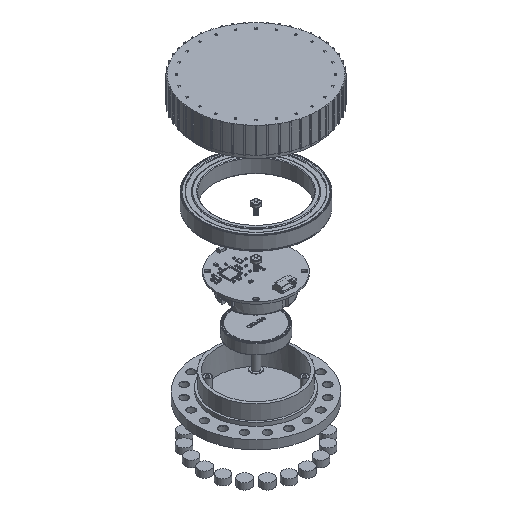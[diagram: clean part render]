
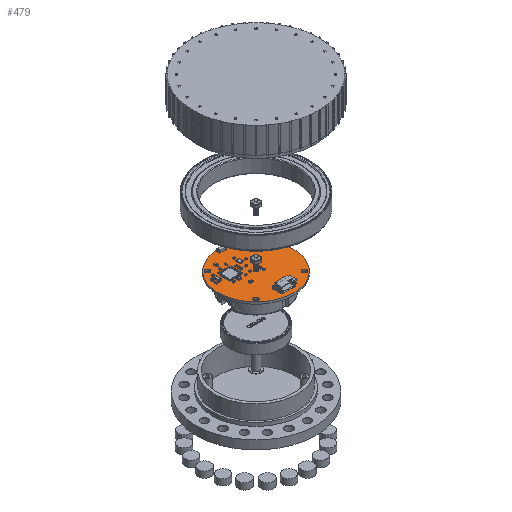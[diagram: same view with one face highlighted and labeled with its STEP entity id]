
A CAD part, isometric view. The second image highlights one B-rep face of the part: STEP entity #479.
In plain terms, the highlighted planar face has unit normal (0, 0, 1).
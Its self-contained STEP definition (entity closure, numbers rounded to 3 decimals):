
#254 = VERTEX_POINT('',#255);
#255 = CARTESIAN_POINT('',(18.25,0.,11.6));
#262 = CYLINDRICAL_SURFACE('',#263,18.25);
#263 = AXIS2_PLACEMENT_3D('',#264,#265,#266);
#264 = CARTESIAN_POINT('',(0.,0.,10.6));
#265 = DIRECTION('',(-0.,-0.,-1.));
#266 = DIRECTION('',(1.,0.,0.));
#281 = EDGE_CURVE('',#254,#254,#282,.T.);
#282 = SURFACE_CURVE('',#283,(#288,#295),.PCURVE_S1.);
#283 = CIRCLE('',#284,18.25);
#284 = AXIS2_PLACEMENT_3D('',#285,#286,#287);
#285 = CARTESIAN_POINT('',(0.,0.,11.6));
#286 = DIRECTION('',(0.,0.,1.));
#287 = DIRECTION('',(1.,0.,0.));
#288 = PCURVE('',#262,#289);
#289 = DEFINITIONAL_REPRESENTATION('',(#290),#294);
#290 = LINE('',#291,#292);
#291 = CARTESIAN_POINT('',(-0.,-1.));
#292 = VECTOR('',#293,1.);
#293 = DIRECTION('',(-1.,0.));
#294 = ( GEOMETRIC_REPRESENTATION_CONTEXT(2) 
PARAMETRIC_REPRESENTATION_CONTEXT() REPRESENTATION_CONTEXT('2D SPACE',''
  ) );
#295 = PCURVE('',#296,#301);
#296 = PLANE('',#297);
#297 = AXIS2_PLACEMENT_3D('',#298,#299,#300);
#298 = CARTESIAN_POINT('',(0.,0.,11.6)
  );
#299 = DIRECTION('',(0.,0.,1.));
#300 = DIRECTION('',(1.,0.,-0.));
#301 = DEFINITIONAL_REPRESENTATION('',(#302),#306);
#302 = CIRCLE('',#303,18.25);
#303 = AXIS2_PLACEMENT_2D('',#304,#305);
#304 = CARTESIAN_POINT('',(0.,0.));
#305 = DIRECTION('',(1.,0.));
#306 = ( GEOMETRIC_REPRESENTATION_CONTEXT(2) 
PARAMETRIC_REPRESENTATION_CONTEXT() REPRESENTATION_CONTEXT('2D SPACE',''
  ) );
#363 = CYLINDRICAL_SURFACE('',#364,1.1);
#364 = AXIS2_PLACEMENT_3D('',#365,#366,#367);
#365 = CARTESIAN_POINT('',(-11.738,-11.738,10.5));
#366 = DIRECTION('',(-0.,-0.,-1.));
#367 = DIRECTION('',(1.,0.,0.));
#398 = CYLINDRICAL_SURFACE('',#399,1.1);
#399 = AXIS2_PLACEMENT_3D('',#400,#401,#402);
#400 = CARTESIAN_POINT('',(11.738,-11.738,10.5));
#401 = DIRECTION('',(-0.,-0.,-1.));
#402 = DIRECTION('',(1.,0.,0.));
#433 = CYLINDRICAL_SURFACE('',#434,1.1);
#434 = AXIS2_PLACEMENT_3D('',#435,#436,#437);
#435 = CARTESIAN_POINT('',(-11.738,11.738,10.5));
#436 = DIRECTION('',(-0.,-0.,-1.));
#437 = DIRECTION('',(1.,0.,0.));
#468 = CYLINDRICAL_SURFACE('',#469,1.1);
#469 = AXIS2_PLACEMENT_3D('',#470,#471,#472);
#470 = CARTESIAN_POINT('',(11.738,11.738,10.5));
#471 = DIRECTION('',(-0.,-0.,-1.));
#472 = DIRECTION('',(1.,0.,0.));
#479 = ADVANCED_FACE('',(#480,#483,#513,#543,#573),#296,.T.);
#480 = FACE_BOUND('',#481,.T.);
#481 = EDGE_LOOP('',(#482));
#482 = ORIENTED_EDGE('',*,*,#281,.T.);
#483 = FACE_BOUND('',#484,.T.);
#484 = EDGE_LOOP('',(#485));
#485 = ORIENTED_EDGE('',*,*,#486,.T.);
#486 = EDGE_CURVE('',#487,#487,#489,.T.);
#487 = VERTEX_POINT('',#488);
#488 = CARTESIAN_POINT('',(-10.638,-11.738,11.6));
#489 = SURFACE_CURVE('',#490,(#495,#506),.PCURVE_S1.);
#490 = CIRCLE('',#491,1.1);
#491 = AXIS2_PLACEMENT_3D('',#492,#493,#494);
#492 = CARTESIAN_POINT('',(-11.738,-11.738,11.6));
#493 = DIRECTION('',(0.,0.,-1.));
#494 = DIRECTION('',(1.,0.,0.));
#495 = PCURVE('',#296,#496);
#496 = DEFINITIONAL_REPRESENTATION('',(#497),#505);
#497 = ( BOUNDED_CURVE() B_SPLINE_CURVE(2,(#498,#499,#500,#501,#502,#503
,#504),.UNSPECIFIED.,.T.,.F.) B_SPLINE_CURVE_WITH_KNOTS((1,2,2,2,2,1),(
    -2.094,0.,2.094,4.189,6.283,
8.378),.UNSPECIFIED.) CURVE() GEOMETRIC_REPRESENTATION_ITEM() 
RATIONAL_B_SPLINE_CURVE((1.,0.5,1.,0.5,1.,0.5,1.)) REPRESENTATION_ITEM(
  '') );
#498 = CARTESIAN_POINT('',(-10.638,-11.738));
#499 = CARTESIAN_POINT('',(-10.638,-13.643));
#500 = CARTESIAN_POINT('',(-12.288,-12.691));
#501 = CARTESIAN_POINT('',(-13.938,-11.738));
#502 = CARTESIAN_POINT('',(-12.288,-10.785));
#503 = CARTESIAN_POINT('',(-10.638,-9.833));
#504 = CARTESIAN_POINT('',(-10.638,-11.738));
#505 = ( GEOMETRIC_REPRESENTATION_CONTEXT(2) 
PARAMETRIC_REPRESENTATION_CONTEXT() REPRESENTATION_CONTEXT('2D SPACE',''
  ) );
#506 = PCURVE('',#363,#507);
#507 = DEFINITIONAL_REPRESENTATION('',(#508),#512);
#508 = LINE('',#509,#510);
#509 = CARTESIAN_POINT('',(-6.283,-1.1));
#510 = VECTOR('',#511,1.);
#511 = DIRECTION('',(1.,-0.));
#512 = ( GEOMETRIC_REPRESENTATION_CONTEXT(2) 
PARAMETRIC_REPRESENTATION_CONTEXT() REPRESENTATION_CONTEXT('2D SPACE',''
  ) );
#513 = FACE_BOUND('',#514,.T.);
#514 = EDGE_LOOP('',(#515));
#515 = ORIENTED_EDGE('',*,*,#516,.T.);
#516 = EDGE_CURVE('',#517,#517,#519,.T.);
#517 = VERTEX_POINT('',#518);
#518 = CARTESIAN_POINT('',(12.838,-11.738,11.6));
#519 = SURFACE_CURVE('',#520,(#525,#536),.PCURVE_S1.);
#520 = CIRCLE('',#521,1.1);
#521 = AXIS2_PLACEMENT_3D('',#522,#523,#524);
#522 = CARTESIAN_POINT('',(11.738,-11.738,11.6));
#523 = DIRECTION('',(0.,0.,-1.));
#524 = DIRECTION('',(1.,0.,0.));
#525 = PCURVE('',#296,#526);
#526 = DEFINITIONAL_REPRESENTATION('',(#527),#535);
#527 = ( BOUNDED_CURVE() B_SPLINE_CURVE(2,(#528,#529,#530,#531,#532,#533
,#534),.UNSPECIFIED.,.T.,.F.) B_SPLINE_CURVE_WITH_KNOTS((1,2,2,2,2,1),(
    -2.094,0.,2.094,4.189,6.283,
8.378),.UNSPECIFIED.) CURVE() GEOMETRIC_REPRESENTATION_ITEM() 
RATIONAL_B_SPLINE_CURVE((1.,0.5,1.,0.5,1.,0.5,1.)) REPRESENTATION_ITEM(
  '') );
#528 = CARTESIAN_POINT('',(12.838,-11.738));
#529 = CARTESIAN_POINT('',(12.838,-13.643));
#530 = CARTESIAN_POINT('',(11.188,-12.691));
#531 = CARTESIAN_POINT('',(9.538,-11.738));
#532 = CARTESIAN_POINT('',(11.188,-10.785));
#533 = CARTESIAN_POINT('',(12.838,-9.833));
#534 = CARTESIAN_POINT('',(12.838,-11.738));
#535 = ( GEOMETRIC_REPRESENTATION_CONTEXT(2) 
PARAMETRIC_REPRESENTATION_CONTEXT() REPRESENTATION_CONTEXT('2D SPACE',''
  ) );
#536 = PCURVE('',#398,#537);
#537 = DEFINITIONAL_REPRESENTATION('',(#538),#542);
#538 = LINE('',#539,#540);
#539 = CARTESIAN_POINT('',(-6.283,-1.1));
#540 = VECTOR('',#541,1.);
#541 = DIRECTION('',(1.,-0.));
#542 = ( GEOMETRIC_REPRESENTATION_CONTEXT(2) 
PARAMETRIC_REPRESENTATION_CONTEXT() REPRESENTATION_CONTEXT('2D SPACE',''
  ) );
#543 = FACE_BOUND('',#544,.T.);
#544 = EDGE_LOOP('',(#545));
#545 = ORIENTED_EDGE('',*,*,#546,.T.);
#546 = EDGE_CURVE('',#547,#547,#549,.T.);
#547 = VERTEX_POINT('',#548);
#548 = CARTESIAN_POINT('',(-10.638,11.738,11.6));
#549 = SURFACE_CURVE('',#550,(#555,#566),.PCURVE_S1.);
#550 = CIRCLE('',#551,1.1);
#551 = AXIS2_PLACEMENT_3D('',#552,#553,#554);
#552 = CARTESIAN_POINT('',(-11.738,11.738,11.6));
#553 = DIRECTION('',(0.,0.,-1.));
#554 = DIRECTION('',(1.,0.,0.));
#555 = PCURVE('',#296,#556);
#556 = DEFINITIONAL_REPRESENTATION('',(#557),#565);
#557 = ( BOUNDED_CURVE() B_SPLINE_CURVE(2,(#558,#559,#560,#561,#562,#563
,#564),.UNSPECIFIED.,.T.,.F.) B_SPLINE_CURVE_WITH_KNOTS((1,2,2,2,2,1),(
    -2.094,0.,2.094,4.189,6.283,
8.378),.UNSPECIFIED.) CURVE() GEOMETRIC_REPRESENTATION_ITEM() 
RATIONAL_B_SPLINE_CURVE((1.,0.5,1.,0.5,1.,0.5,1.)) REPRESENTATION_ITEM(
  '') );
#558 = CARTESIAN_POINT('',(-10.638,11.738));
#559 = CARTESIAN_POINT('',(-10.638,9.833));
#560 = CARTESIAN_POINT('',(-12.288,10.785));
#561 = CARTESIAN_POINT('',(-13.938,11.738));
#562 = CARTESIAN_POINT('',(-12.288,12.691));
#563 = CARTESIAN_POINT('',(-10.638,13.643));
#564 = CARTESIAN_POINT('',(-10.638,11.738));
#565 = ( GEOMETRIC_REPRESENTATION_CONTEXT(2) 
PARAMETRIC_REPRESENTATION_CONTEXT() REPRESENTATION_CONTEXT('2D SPACE',''
  ) );
#566 = PCURVE('',#433,#567);
#567 = DEFINITIONAL_REPRESENTATION('',(#568),#572);
#568 = LINE('',#569,#570);
#569 = CARTESIAN_POINT('',(-6.283,-1.1));
#570 = VECTOR('',#571,1.);
#571 = DIRECTION('',(1.,-0.));
#572 = ( GEOMETRIC_REPRESENTATION_CONTEXT(2) 
PARAMETRIC_REPRESENTATION_CONTEXT() REPRESENTATION_CONTEXT('2D SPACE',''
  ) );
#573 = FACE_BOUND('',#574,.T.);
#574 = EDGE_LOOP('',(#575));
#575 = ORIENTED_EDGE('',*,*,#576,.T.);
#576 = EDGE_CURVE('',#577,#577,#579,.T.);
#577 = VERTEX_POINT('',#578);
#578 = CARTESIAN_POINT('',(12.838,11.738,11.6));
#579 = SURFACE_CURVE('',#580,(#585,#596),.PCURVE_S1.);
#580 = CIRCLE('',#581,1.1);
#581 = AXIS2_PLACEMENT_3D('',#582,#583,#584);
#582 = CARTESIAN_POINT('',(11.738,11.738,11.6));
#583 = DIRECTION('',(0.,0.,-1.));
#584 = DIRECTION('',(1.,0.,0.));
#585 = PCURVE('',#296,#586);
#586 = DEFINITIONAL_REPRESENTATION('',(#587),#595);
#587 = ( BOUNDED_CURVE() B_SPLINE_CURVE(2,(#588,#589,#590,#591,#592,#593
,#594),.UNSPECIFIED.,.T.,.F.) B_SPLINE_CURVE_WITH_KNOTS((1,2,2,2,2,1),(
    -2.094,0.,2.094,4.189,6.283,
8.378),.UNSPECIFIED.) CURVE() GEOMETRIC_REPRESENTATION_ITEM() 
RATIONAL_B_SPLINE_CURVE((1.,0.5,1.,0.5,1.,0.5,1.)) REPRESENTATION_ITEM(
  '') );
#588 = CARTESIAN_POINT('',(12.838,11.738));
#589 = CARTESIAN_POINT('',(12.838,9.833));
#590 = CARTESIAN_POINT('',(11.188,10.785));
#591 = CARTESIAN_POINT('',(9.538,11.738));
#592 = CARTESIAN_POINT('',(11.188,12.691));
#593 = CARTESIAN_POINT('',(12.838,13.643));
#594 = CARTESIAN_POINT('',(12.838,11.738));
#595 = ( GEOMETRIC_REPRESENTATION_CONTEXT(2) 
PARAMETRIC_REPRESENTATION_CONTEXT() REPRESENTATION_CONTEXT('2D SPACE',''
  ) );
#596 = PCURVE('',#468,#597);
#597 = DEFINITIONAL_REPRESENTATION('',(#598),#602);
#598 = LINE('',#599,#600);
#599 = CARTESIAN_POINT('',(-6.283,-1.1));
#600 = VECTOR('',#601,1.);
#601 = DIRECTION('',(1.,-0.));
#602 = ( GEOMETRIC_REPRESENTATION_CONTEXT(2) 
PARAMETRIC_REPRESENTATION_CONTEXT() REPRESENTATION_CONTEXT('2D SPACE',''
  ) );
